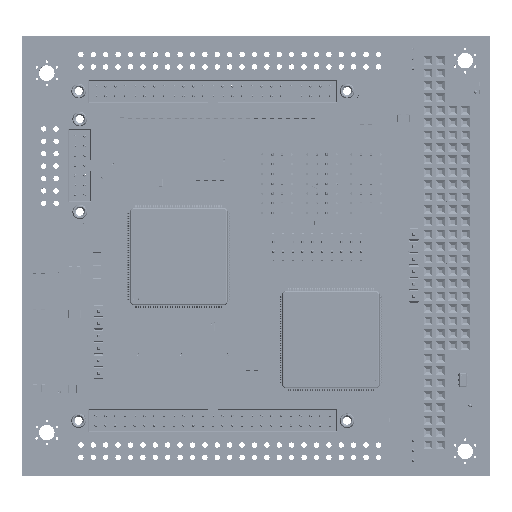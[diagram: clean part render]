
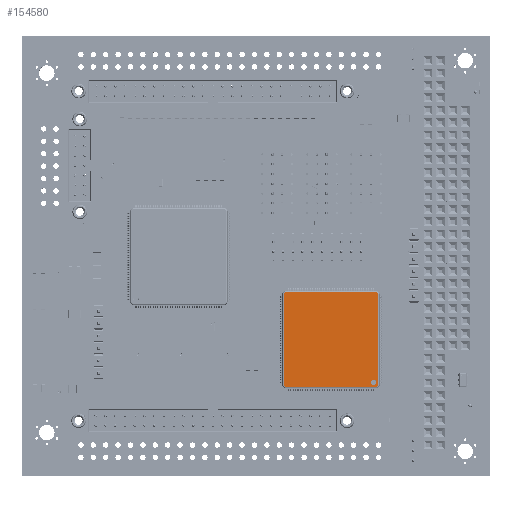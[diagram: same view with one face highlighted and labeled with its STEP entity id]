
A CAD part, top view. The second image highlights one B-rep face of the part: STEP entity #154580.
In plain terms, the highlighted planar face has unit normal (0, 0, 1).
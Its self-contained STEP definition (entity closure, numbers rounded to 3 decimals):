
#154552 = VERTEX_POINT('',#154553);
#154553 = CARTESIAN_POINT('',(-8.75,-9.3,1.6));
#154560 = EDGE_CURVE('',#154561,#154552,#154563,.T.);
#154561 = VERTEX_POINT('',#154562);
#154562 = CARTESIAN_POINT('',(-8.75,-8.2,1.6));
#154563 = CIRCLE('',#154564,0.55);
#154564 = AXIS2_PLACEMENT_3D('',#154565,#154566,#154567);
#154565 = CARTESIAN_POINT('',(-8.75,-8.75,1.6));
#154566 = DIRECTION('',(0.,0.,-1.));
#154567 = DIRECTION('',(0.,1.,0.));
#154580 = ADVANCED_FACE('',(#154581,#154647),#154657,.F.);
#154581 = FACE_BOUND('',#154582,.T.);
#154582 = EDGE_LOOP('',(#154583,#154593,#154601,#154609,#154617,#154625,
    #154633,#154641));
#154583 = ORIENTED_EDGE('',*,*,#154584,.T.);
#154584 = EDGE_CURVE('',#154585,#154587,#154589,.T.);
#154585 = VERTEX_POINT('',#154586);
#154586 = CARTESIAN_POINT('',(9.376,9.701,1.6));
#154587 = VERTEX_POINT('',#154588);
#154588 = CARTESIAN_POINT('',(-9.376,9.701,1.6));
#154589 = LINE('',#154590,#154591);
#154590 = CARTESIAN_POINT('',(-9.456,9.701,1.6));
#154591 = VECTOR('',#154592,1.);
#154592 = DIRECTION('',(-1.,0.,0.));
#154593 = ORIENTED_EDGE('',*,*,#154594,.T.);
#154594 = EDGE_CURVE('',#154587,#154595,#154597,.T.);
#154595 = VERTEX_POINT('',#154596);
#154596 = CARTESIAN_POINT('',(-9.701,9.376,1.6));
#154597 = LINE('',#154598,#154599);
#154598 = CARTESIAN_POINT('',(-9.757,9.32,1.6));
#154599 = VECTOR('',#154600,1.);
#154600 = DIRECTION('',(-0.707,-0.707,0.));
#154601 = ORIENTED_EDGE('',*,*,#154602,.T.);
#154602 = EDGE_CURVE('',#154595,#154603,#154605,.T.);
#154603 = VERTEX_POINT('',#154604);
#154604 = CARTESIAN_POINT('',(-9.701,-9.376,1.6));
#154605 = LINE('',#154606,#154607);
#154606 = CARTESIAN_POINT('',(-9.701,-9.456,1.6));
#154607 = VECTOR('',#154608,1.);
#154608 = DIRECTION('',(0.,-1.,0.));
#154609 = ORIENTED_EDGE('',*,*,#154610,.T.);
#154610 = EDGE_CURVE('',#154603,#154611,#154613,.T.);
#154611 = VERTEX_POINT('',#154612);
#154612 = CARTESIAN_POINT('',(-9.376,-9.701,1.6));
#154613 = LINE('',#154614,#154615);
#154614 = CARTESIAN_POINT('',(-9.32,-9.757,1.6));
#154615 = VECTOR('',#154616,1.);
#154616 = DIRECTION('',(0.707,-0.707,0.));
#154617 = ORIENTED_EDGE('',*,*,#154618,.T.);
#154618 = EDGE_CURVE('',#154611,#154619,#154621,.T.);
#154619 = VERTEX_POINT('',#154620);
#154620 = CARTESIAN_POINT('',(9.376,-9.701,1.6));
#154621 = LINE('',#154622,#154623);
#154622 = CARTESIAN_POINT('',(9.456,-9.701,1.6));
#154623 = VECTOR('',#154624,1.);
#154624 = DIRECTION('',(1.,0.,0.));
#154625 = ORIENTED_EDGE('',*,*,#154626,.T.);
#154626 = EDGE_CURVE('',#154619,#154627,#154629,.T.);
#154627 = VERTEX_POINT('',#154628);
#154628 = CARTESIAN_POINT('',(9.701,-9.376,1.6));
#154629 = LINE('',#154630,#154631);
#154630 = CARTESIAN_POINT('',(9.757,-9.32,1.6));
#154631 = VECTOR('',#154632,1.);
#154632 = DIRECTION('',(0.707,0.707,0.));
#154633 = ORIENTED_EDGE('',*,*,#154634,.T.);
#154634 = EDGE_CURVE('',#154627,#154635,#154637,.T.);
#154635 = VERTEX_POINT('',#154636);
#154636 = CARTESIAN_POINT('',(9.701,9.376,1.6));
#154637 = LINE('',#154638,#154639);
#154638 = CARTESIAN_POINT('',(9.701,9.456,1.6));
#154639 = VECTOR('',#154640,1.);
#154640 = DIRECTION('',(0.,1.,0.));
#154641 = ORIENTED_EDGE('',*,*,#154642,.T.);
#154642 = EDGE_CURVE('',#154635,#154585,#154643,.T.);
#154643 = LINE('',#154644,#154645);
#154644 = CARTESIAN_POINT('',(9.32,9.757,1.6));
#154645 = VECTOR('',#154646,1.);
#154646 = DIRECTION('',(-0.707,0.707,0.));
#154647 = FACE_BOUND('',#154648,.T.);
#154648 = EDGE_LOOP('',(#154649,#154650));
#154649 = ORIENTED_EDGE('',*,*,#154560,.T.);
#154650 = ORIENTED_EDGE('',*,*,#154651,.T.);
#154651 = EDGE_CURVE('',#154552,#154561,#154652,.T.);
#154652 = CIRCLE('',#154653,0.55);
#154653 = AXIS2_PLACEMENT_3D('',#154654,#154655,#154656);
#154654 = CARTESIAN_POINT('',(-8.75,-8.75,1.6));
#154655 = DIRECTION('',(0.,0.,-1.));
#154656 = DIRECTION('',(0.,1.,0.));
#154657 = PLANE('',#154658);
#154658 = AXIS2_PLACEMENT_3D('',#154659,#154660,#154661);
#154659 = CARTESIAN_POINT('',(0.,0.,1.6));
#154660 = DIRECTION('',(0.,0.,-1.));
#154661 = DIRECTION('',(0.,1.,0.));
